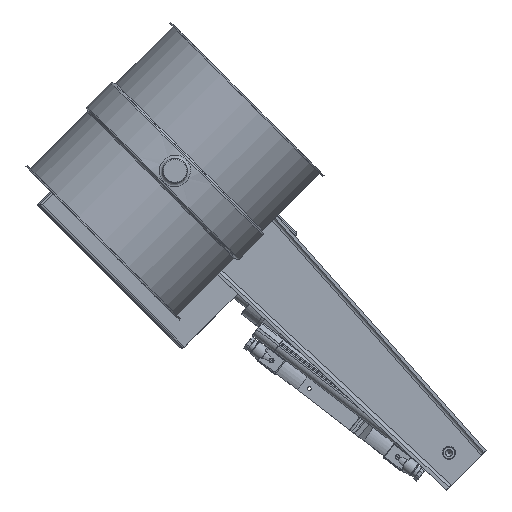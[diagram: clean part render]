
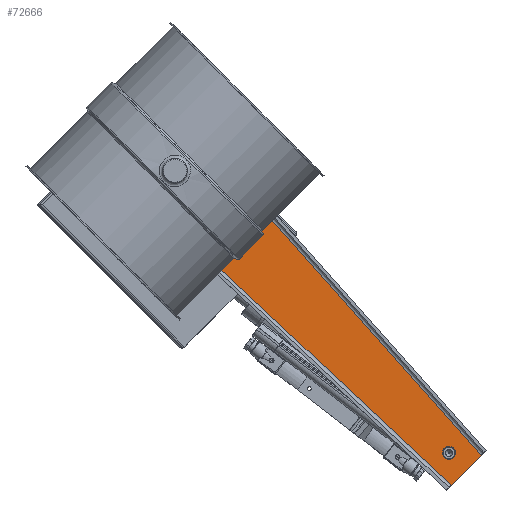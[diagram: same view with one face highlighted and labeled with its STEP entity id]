
A CAD part, top view. The second image highlights one B-rep face of the part: STEP entity #72666.
In plain terms, the highlighted planar face has unit normal (0, 0, 1).
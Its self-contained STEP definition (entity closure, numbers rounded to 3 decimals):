
#72478=CARTESIAN_POINT('',(-509.717,21.486,4.0));
#72479=VERTEX_POINT('',#72478);
#72487=CARTESIAN_POINT('',(0.,-7.999,4.0));
#72488=VERTEX_POINT('',#72487);
#72489=CARTESIAN_POINT('',(-509.717,21.486,4.0));
#72490=DIRECTION('',(0.998,-0.058,0.0));
#72491=VECTOR('',#72490,510.569);
#72492=LINE('',#72489,#72491);
#72493=EDGE_CURVE('',#72479,#72488,#72492,.T.);
#72513=CARTESIAN_POINT('',(-280.524,-30.45,4.0));
#72514=DIRECTION('',(0.0,0.0,1.0));
#72515=DIRECTION('',(1.0,0.0,0.0));
#72516=AXIS2_PLACEMENT_3D('',#72513,#72514,#72515);
#72517=PLANE('',#72516);
#72518=ORIENTED_EDGE('',*,*,#72493,.F.);
#72519=CARTESIAN_POINT('',(-509.976,29.491,4.0));
#72520=VERTEX_POINT('',#72519);
#72521=CARTESIAN_POINT('',(-509.976,29.491,4.0));
#72522=DIRECTION('',(0.032,-0.999,0.0));
#72523=VECTOR('',#72522,8.009);
#72524=LINE('',#72521,#72523);
#72525=EDGE_CURVE('',#72520,#72479,#72524,.T.);
#72526=ORIENTED_EDGE('',*,*,#72525,.F.);
#72527=CARTESIAN_POINT('',(-513.695,25.371,4.0));
#72528=VERTEX_POINT('',#72527);
#72529=CARTESIAN_POINT('',(-513.974,29.361,4.0));
#72530=DIRECTION('',(0.0,0.0,1.0));
#72531=DIRECTION('',(0.742,-0.67,0.0));
#72532=AXIS2_PLACEMENT_3D('',#72529,#72530,#72531);
#72533=CIRCLE('',#72532,4.0);
#72534=EDGE_CURVE('',#72520,#72528,#72533,.F.);
#72535=ORIENTED_EDGE('',*,*,#72534,.T.);
#72536=CARTESIAN_POINT('',(-513.719,-80.369,4.0));
#72537=VERTEX_POINT('',#72536);
#72538=CARTESIAN_POINT('',(-510.0,-27.5,4.0));
#72539=DIRECTION('',(0.0,0.0,-1.));
#72540=DIRECTION('',(-0.003,-1.,0.0));
#72541=AXIS2_PLACEMENT_3D('',#72538,#72539,#72540);
#72542=CIRCLE('',#72541,53.);
#72543=EDGE_CURVE('',#72537,#72528,#72542,.T.);
#72544=ORIENTED_EDGE('',*,*,#72543,.F.);
#72545=CARTESIAN_POINT('',(-510.0,-84.359,4.0));
#72546=VERTEX_POINT('',#72545);
#72547=CARTESIAN_POINT('',(-514.0,-84.359,4.0));
#72548=DIRECTION('',(0.0,0.0,1.0));
#72549=DIRECTION('',(0.731,0.682,0.0));
#72550=AXIS2_PLACEMENT_3D('',#72547,#72548,#72549);
#72551=CIRCLE('',#72550,4.0);
#72552=EDGE_CURVE('',#72546,#72537,#72551,.T.);
#72553=ORIENTED_EDGE('',*,*,#72552,.F.);
#72554=CARTESIAN_POINT('',(-510.0,-76.498,4.0));
#72555=VERTEX_POINT('',#72554);
#72556=CARTESIAN_POINT('',(-510.0,-84.359,4.0));
#72557=DIRECTION('',(0.0,1.0,0.0));
#72558=VECTOR('',#72557,7.862);
#72559=LINE('',#72556,#72558);
#72560=EDGE_CURVE('',#72546,#72555,#72559,.T.);
#72561=ORIENTED_EDGE('',*,*,#72560,.T.);
#72562=CARTESIAN_POINT('',(0.,-59.998,4.0));
#72563=VERTEX_POINT('',#72562);
#72564=CARTESIAN_POINT('',(0.0,-59.998,4.0));
#72565=DIRECTION('',(-0.999,-0.032,0.0));
#72566=VECTOR('',#72565,510.267);
#72567=LINE('',#72564,#72566);
#72568=EDGE_CURVE('',#72563,#72555,#72567,.T.);
#72569=ORIENTED_EDGE('',*,*,#72568,.F.);
#72570=CARTESIAN_POINT('',(0.,-7.999,4.0));
#72571=DIRECTION('',(0.0,-1.0,0.0));
#72572=VECTOR('',#72571,51.998);
#72573=LINE('',#72570,#72572);
#72574=EDGE_CURVE('',#72488,#72563,#72573,.T.);
#72575=ORIENTED_EDGE('',*,*,#72574,.F.);
#72576=EDGE_LOOP('',(#72518,#72526,#72535,#72544,#72553,#72561,#72569,#72575));
#72577=FACE_OUTER_BOUND('',#72576,.T.);
#72578=CARTESIAN_POINT('',(-539.249,-2.751,4.0));
#72579=VERTEX_POINT('',#72578);
#72580=CARTESIAN_POINT('',(-534.749,-2.751,4.0));
#72581=DIRECTION('',(0.0,0.0,-1.0));
#72582=DIRECTION('',(-1.0,0.0,0.0));
#72583=AXIS2_PLACEMENT_3D('',#72580,#72581,#72582);
#72584=CIRCLE('',#72583,4.5);
#72585=EDGE_CURVE('',#72579,#72579,#72584,.T.);
#72586=ORIENTED_EDGE('',*,*,#72585,.T.);
#72587=EDGE_LOOP('',(#72586));
#72588=FACE_BOUND('',#72587,.T.);
#72589=CARTESIAN_POINT('',(-489.751,-2.751,4.0));
#72590=VERTEX_POINT('',#72589);
#72591=CARTESIAN_POINT('',(-485.251,-2.751,4.0));
#72592=DIRECTION('',(0.0,0.0,-1.0));
#72593=DIRECTION('',(-1.0,0.0,0.0));
#72594=AXIS2_PLACEMENT_3D('',#72591,#72592,#72593);
#72595=CIRCLE('',#72594,4.5);
#72596=EDGE_CURVE('',#72590,#72590,#72595,.T.);
#72597=ORIENTED_EDGE('',*,*,#72596,.T.);
#72598=EDGE_LOOP('',(#72597));
#72599=FACE_BOUND('',#72598,.T.);
#72600=CARTESIAN_POINT('',(-489.751,-52.249,4.0));
#72601=VERTEX_POINT('',#72600);
#72602=CARTESIAN_POINT('',(-485.251,-52.249,4.0));
#72603=DIRECTION('',(0.0,0.0,-1.0));
#72604=DIRECTION('',(-1.0,0.0,0.0));
#72605=AXIS2_PLACEMENT_3D('',#72602,#72603,#72604);
#72606=CIRCLE('',#72605,4.5);
#72607=EDGE_CURVE('',#72601,#72601,#72606,.T.);
#72608=ORIENTED_EDGE('',*,*,#72607,.T.);
#72609=EDGE_LOOP('',(#72608));
#72610=FACE_BOUND('',#72609,.T.);
#72611=CARTESIAN_POINT('',(-539.249,-52.249,4.0));
#72612=VERTEX_POINT('',#72611);
#72613=CARTESIAN_POINT('',(-534.749,-52.249,4.0));
#72614=DIRECTION('',(0.0,0.0,-1.0));
#72615=DIRECTION('',(-1.0,0.0,0.0));
#72616=AXIS2_PLACEMENT_3D('',#72613,#72614,#72615);
#72617=CIRCLE('',#72616,4.5);
#72618=EDGE_CURVE('',#72612,#72612,#72617,.T.);
#72619=ORIENTED_EDGE('',*,*,#72618,.T.);
#72620=EDGE_LOOP('',(#72619));
#72621=FACE_BOUND('',#72620,.T.);
#72622=CARTESIAN_POINT('',(-520.0,-27.5,4.0));
#72623=VERTEX_POINT('',#72622);
#72624=CARTESIAN_POINT('',(-510.0,-27.5,4.0));
#72625=DIRECTION('',(0.0,0.0,-1.0));
#72626=DIRECTION('',(1.0,0.0,0.0));
#72627=AXIS2_PLACEMENT_3D('',#72624,#72625,#72626);
#72628=CIRCLE('',#72627,10.0);
#72629=EDGE_CURVE('',#72623,#72623,#72628,.T.);
#72630=ORIENTED_EDGE('',*,*,#72629,.T.);
#72631=EDGE_LOOP('',(#72630));
#72632=FACE_BOUND('',#72631,.T.);
#72633=CARTESIAN_POINT('',(-457.458,0.,4.0));
#72634=VERTEX_POINT('',#72633);
#72635=CARTESIAN_POINT('',(-455.0,0.,4.0));
#72636=DIRECTION('',(0.0,0.0,-1.0));
#72637=DIRECTION('',(-1.0,0.0,0.0));
#72638=AXIS2_PLACEMENT_3D('',#72635,#72636,#72637);
#72639=CIRCLE('',#72638,2.459);
#72640=EDGE_CURVE('',#72634,#72634,#72639,.T.);
#72641=ORIENTED_EDGE('',*,*,#72640,.T.);
#72642=EDGE_LOOP('',(#72641));
#72643=FACE_BOUND('',#72642,.T.);
#72644=CARTESIAN_POINT('',(-457.458,-55.,4.0));
#72645=VERTEX_POINT('',#72644);
#72646=CARTESIAN_POINT('',(-455.0,-55.,4.0));
#72647=DIRECTION('',(0.0,0.0,-1.0));
#72648=DIRECTION('',(-1.0,0.0,0.0));
#72649=AXIS2_PLACEMENT_3D('',#72646,#72647,#72648);
#72650=CIRCLE('',#72649,2.459);
#72651=EDGE_CURVE('',#72645,#72645,#72650,.T.);
#72652=ORIENTED_EDGE('',*,*,#72651,.T.);
#72653=EDGE_LOOP('',(#72652));
#72654=FACE_BOUND('',#72653,.T.);
#72655=CARTESIAN_POINT('',(-24.,-34.,4.0));
#72656=VERTEX_POINT('',#72655);
#72657=CARTESIAN_POINT('',(-30.,-34.,4.0));
#72658=DIRECTION('',(0.0,0.0,-1.0));
#72659=DIRECTION('',(-1.0,0.0,0.0));
#72660=AXIS2_PLACEMENT_3D('',#72657,#72658,#72659);
#72661=CIRCLE('',#72660,6.);
#72662=EDGE_CURVE('',#72656,#72656,#72661,.T.);
#72663=ORIENTED_EDGE('',*,*,#72662,.T.);
#72664=EDGE_LOOP('',(#72663));
#72665=FACE_BOUND('',#72664,.T.);
#72666=ADVANCED_FACE('',(#72577,#72588,#72599,#72610,#72621,#72632,#72643,#72654,#72665),#72517,.T.);
